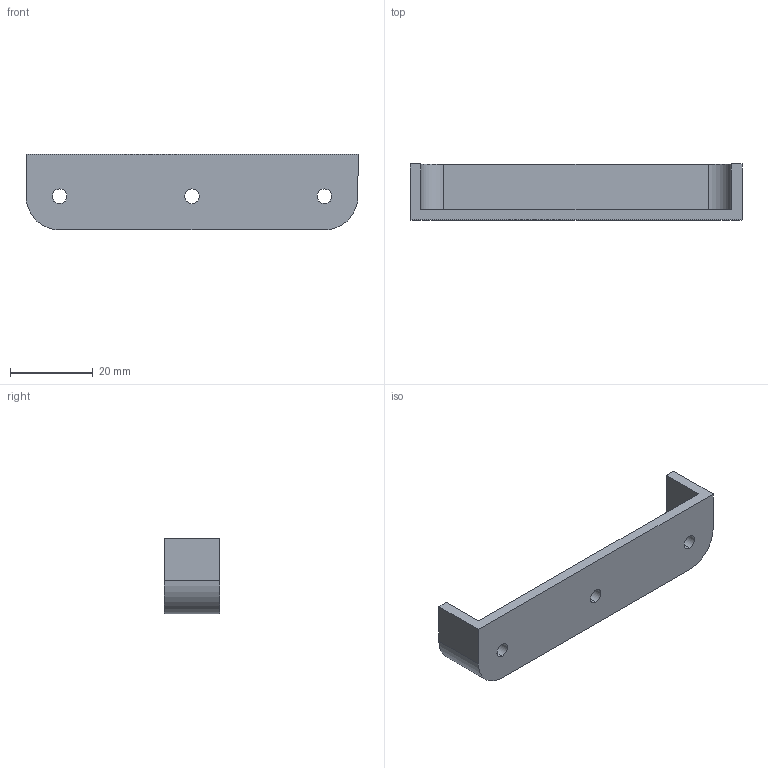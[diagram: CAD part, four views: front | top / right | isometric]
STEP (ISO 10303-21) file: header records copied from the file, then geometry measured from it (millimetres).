
FILE_DESCRIPTION (( 'STEP AP214' ), '1' );
FILE_NAME ('4030_POCKET_OPEN_DBL_CLIP_SER.STEP', '2025-06-17T15:13:08', ( '' ), ( '' ), 'SwSTEP 2.0', 'SolidWorks 2025', '' );
FILE_SCHEMA (( 'AUTOMOTIVE_DESIGN' ));
Length unit declared in the file: inch
Products named in the file (1): 4030_POCKET_OPEN_DBL_CLIP_SER
Bounding box: 80.26 x 13.54 x 18.34 mm (x, y, z)
Volume: 6551.5 mm3; surface area: 5782.8 mm2
Topology: 1 solids, 1 shells, 20 faces, 54 edges, 36 vertices
Faces by surface type: cylinder 10, plane 10
Entity records: 677 total; most frequent: DIRECTION 116, CARTESIAN_POINT 111, ORIENTED_EDGE 108, EDGE_CURVE 54, AXIS2_PLACEMENT_3D 41, VERTEX_POINT 36, VECTOR 34, LINE 34
